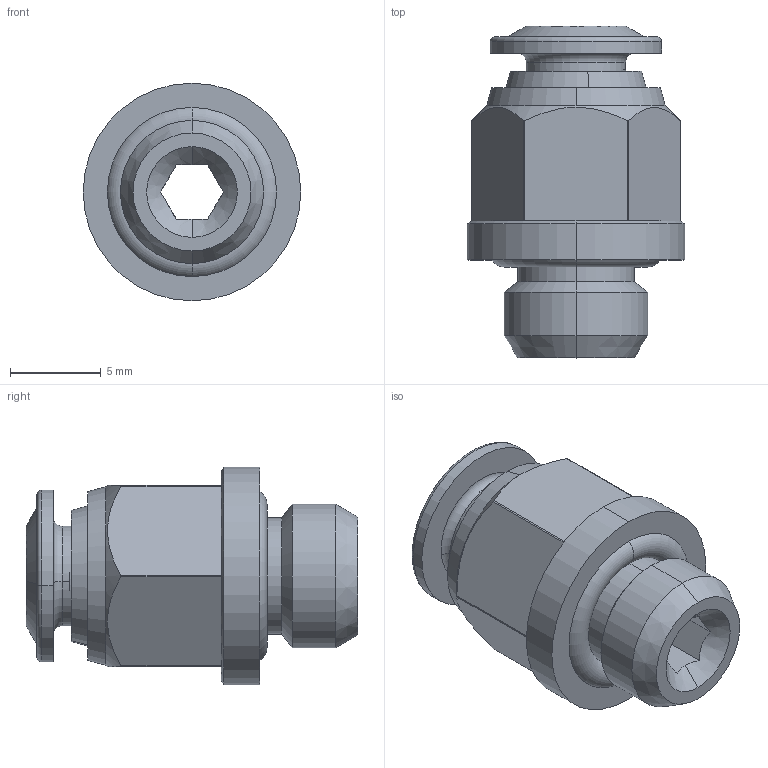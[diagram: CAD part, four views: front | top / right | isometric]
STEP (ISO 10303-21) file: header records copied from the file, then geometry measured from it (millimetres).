
FILE_DESCRIPTION (( 'STEP AP214' ), '1' );
FILE_NAME ('5702000046A.STEP', '2024-10-28T15:40:56', ( '' ), ( '' ), 'SwSTEP 2.0', 'SolidWorks 2020', '' );
FILE_SCHEMA (( 'AUTOMOTIVE_DESIGN' ));
Length unit declared in the file: millimetre
Products named in the file (1): 5702000046A
Bounding box: 12 x 18.3 x 12 mm (x, y, z)
Volume: 1018.2 mm3; surface area: 1036.2 mm2
Topology: 1 solids, 1 shells, 74 faces, 181 edges, 114 vertices
Faces by surface type: plane 31, cone 23, cylinder 14, torus 6
Entity records: 3114 total; most frequent: CARTESIAN_POINT 534, DIRECTION 385, ORIENTED_EDGE 362, EDGE_CURVE 181, AXIS2_PLACEMENT_3D 157, VERTEX_POINT 114, CIRCLE 82, EDGE_LOOP 81
